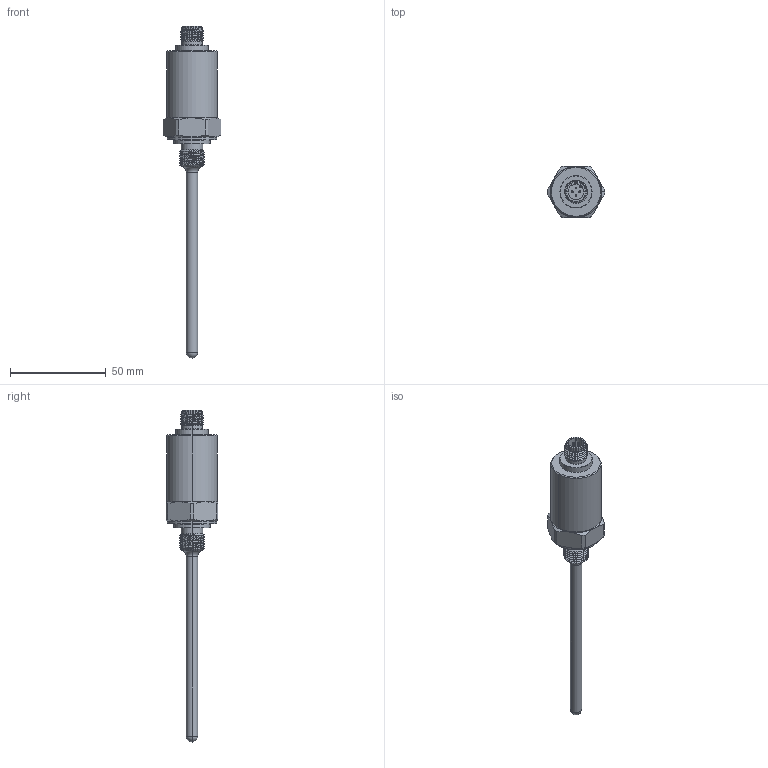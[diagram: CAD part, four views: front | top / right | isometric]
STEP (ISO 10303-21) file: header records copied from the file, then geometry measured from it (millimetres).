
FILE_DESCRIPTION (( 'STEP AP214' ), '1' );
FILE_NAME ('BTS1A53.STEP', '2024-12-03T06:51:37', ( '' ), ( '' ), 'SwSTEP 2.0', 'SolidWorks 2022', '' );
FILE_SCHEMA (( 'AUTOMOTIVE_DESIGN' ));
Length unit declared in the file: millimetre
Products named in the file (1): BTS1A53
Bounding box: 30.18 x 27 x 173.5 mm (x, y, z)
Volume: 31944 mm3; surface area: 8916.1 mm2
Topology: 1 solids, 1 shells, 149 faces, 354 edges, 212 vertices
Faces by surface type: cylinder 53, plane 34, cone 26, torus 20, sphere 10, bspline 6
Entity records: 6881 total; most frequent: CARTESIAN_POINT 3360, ORIENTED_EDGE 678, DIRECTION 641, EDGE_CURVE 339, AXIS2_PLACEMENT_3D 275, VERTEX_POINT 207, EDGE_LOOP 164, FACE_OUTER_BOUND 149
